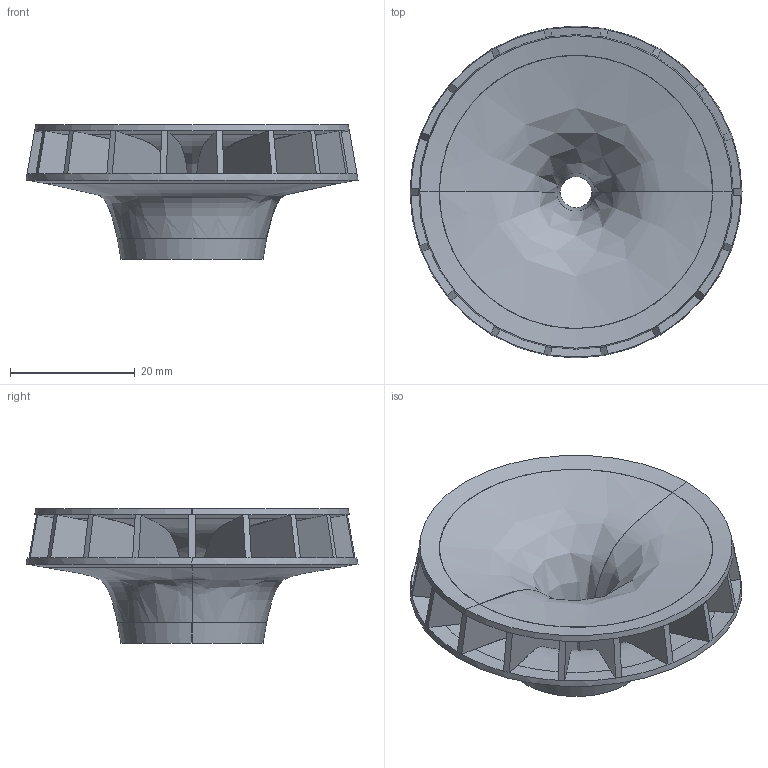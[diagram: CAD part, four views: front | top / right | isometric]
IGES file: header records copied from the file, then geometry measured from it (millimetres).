
Start section: SolidWorks IGES file using analytic representation for surfaces
Global section: file name: E:\Hackathon-2024\Hackathon-2024\Hackathon-2024\Hackathon-2024\Impeller Design and Analysis\IGES\Radial_Impeller_Blade_with_Hub_and_Shroud_18_blades.IGS; native system: SolidWorks 2017; preprocessor: SolidWorks 2017; author: SUJIT; date: 240512.112551; units: millimetre
Bounding box: 53.13 x 53.13 x 21.56 mm (x, y, z)
Surface area: 17550.9 mm2 (no closed solid volume)
Topology: 0 solids, 0 shells, 242 faces, 2910 edges, 2910 vertices
Faces by surface type: bspline 186, revolution 56
